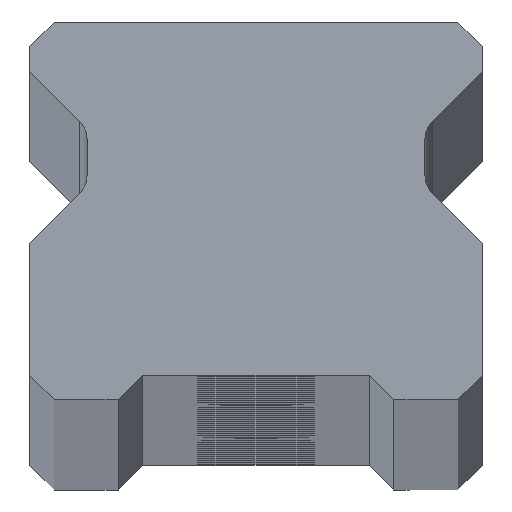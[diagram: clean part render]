
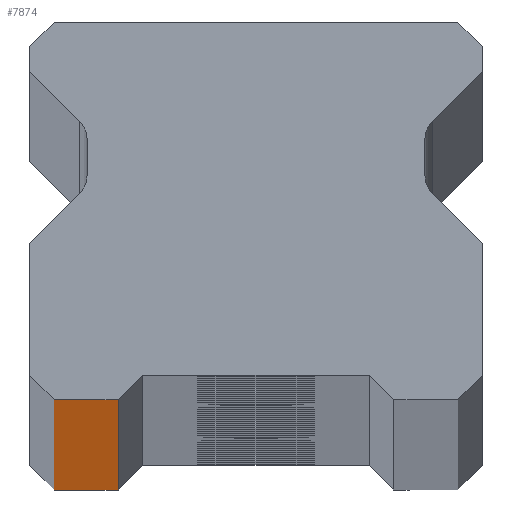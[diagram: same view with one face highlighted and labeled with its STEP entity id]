
A CAD part, top view. The second image highlights one B-rep face of the part: STEP entity #7874.
In plain terms, the highlighted planar face has unit normal (0, -1, 0).
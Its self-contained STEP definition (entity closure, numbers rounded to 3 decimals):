
#244 = DIRECTION ( 'NONE',  ( 1., 0., 0. ) ) ;
#289 = CARTESIAN_POINT ( 'NONE',  ( -10.25, 0., -1310. ) ) ;
#522 = CARTESIAN_POINT ( 'NONE',  ( 11.5, 0., 1310. ) ) ;
#669 = DIRECTION ( 'NONE',  ( -1., 0., 0. ) ) ;
#683 = VERTEX_POINT ( 'NONE', #289 ) ;
#838 = CARTESIAN_POINT ( 'NONE',  ( -7., 0., -1310. ) ) ;
#890 = CARTESIAN_POINT ( 'NONE',  ( -7., 0., -1310. ) ) ;
#933 = EDGE_CURVE ( 'NONE', #2333, #683, #3599, .T. ) ;
#998 = PLANE ( 'NONE',  #3536 ) ;
#1034 = FACE_OUTER_BOUND ( 'NONE', #5867, .T. ) ;
#1431 = CARTESIAN_POINT ( 'NONE',  ( -10.25, 0., 1310. ) ) ;
#1946 = VERTEX_POINT ( 'NONE', #890 ) ;
#2052 = CARTESIAN_POINT ( 'NONE',  ( -10.25, 0., 1310. ) ) ;
#2204 = VECTOR ( 'NONE', #244, 1000. ) ;
#2333 = VERTEX_POINT ( 'NONE', #1431 ) ;
#2363 = LINE ( 'NONE', #838, #3575 ) ;
#3013 = ORIENTED_EDGE ( 'NONE', *, *, #6128, .T. ) ;
#3301 = DIRECTION ( 'NONE',  ( 0., 1., 0. ) ) ;
#3536 = AXIS2_PLACEMENT_3D ( 'NONE', #522, #3301, #669 ) ;
#3571 = VERTEX_POINT ( 'NONE', #3951 ) ;
#3575 = VECTOR ( 'NONE', #4990, 1000. ) ;
#3599 = LINE ( 'NONE', #2052, #7380 ) ;
#3951 = CARTESIAN_POINT ( 'NONE',  ( -7., 0., 1310. ) ) ;
#4125 = LINE ( 'NONE', #4777, #6389 ) ;
#4431 = CARTESIAN_POINT ( 'NONE',  ( 11.5, 0., -1310. ) ) ;
#4777 = CARTESIAN_POINT ( 'NONE',  ( 11.5, 0., 1310. ) ) ;
#4990 = DIRECTION ( 'NONE',  ( 0., 0., 1. ) ) ;
#5791 = LINE ( 'NONE', #4431, #2204 ) ;
#5867 = EDGE_LOOP ( 'NONE', ( #6198, #3013, #6980, #8525 ) ) ;
#6128 = EDGE_CURVE ( 'NONE', #1946, #3571, #2363, .T. ) ;
#6150 = DIRECTION ( 'NONE',  ( 1., 0., 0. ) ) ;
#6198 = ORIENTED_EDGE ( 'NONE', *, *, #8874, .T. ) ;
#6389 = VECTOR ( 'NONE', #6150, 1000. ) ;
#6455 = EDGE_CURVE ( 'NONE', #2333, #3571, #4125, .T. ) ;
#6980 = ORIENTED_EDGE ( 'NONE', *, *, #6455, .F. ) ;
#7380 = VECTOR ( 'NONE', #8392, 1000. ) ;
#7874 = ADVANCED_FACE ( 'NONE', ( #1034 ), #998, .F. ) ;
#8392 = DIRECTION ( 'NONE',  ( 0., 0., -1. ) ) ;
#8525 = ORIENTED_EDGE ( 'NONE', *, *, #933, .T. ) ;
#8874 = EDGE_CURVE ( 'NONE', #683, #1946, #5791, .T. ) ;
